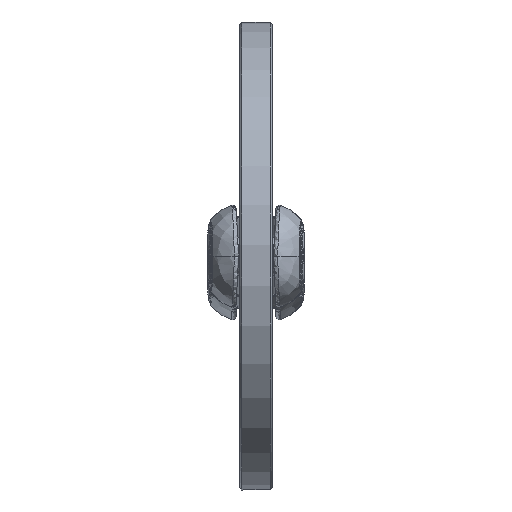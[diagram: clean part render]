
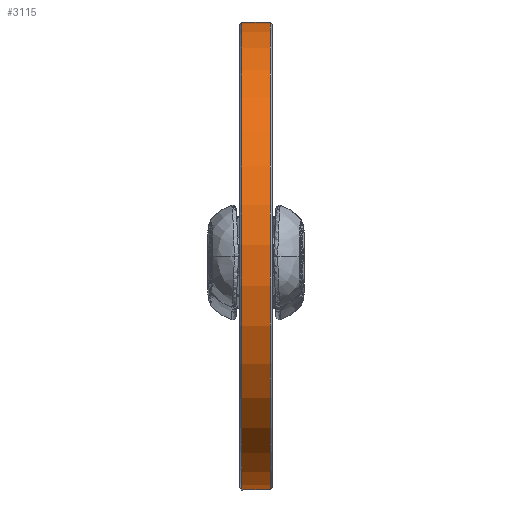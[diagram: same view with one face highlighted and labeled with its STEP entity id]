
A CAD part, top view. The second image highlights one B-rep face of the part: STEP entity #3115.
In plain terms, the highlighted cylindrical face has radius 465 mm (diameter 930 mm), a full revolution.
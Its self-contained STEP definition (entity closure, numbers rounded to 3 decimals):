
#654=CYLINDRICAL_SURFACE($,#3467,465.);
#764=FACE_BOUND($,#1275,.T.);
#971=FACE_OUTER_BOUND($,#1274,.T.);
#1274=EDGE_LOOP($,(#2858));
#1275=EDGE_LOOP($,(#2859));
#1467=CIRCLE($,#3466,465.);
#1468=CIRCLE($,#3468,465.);
#1733=VERTEX_POINT($,#13462);
#1734=VERTEX_POINT($,#13465);
#2113=EDGE_CURVE($,#1733,#1733,#1467,.T.);
#2114=EDGE_CURVE($,#1734,#1734,#1468,.T.);
#2858=ORIENTED_EDGE($,*,*,#2114,.F.);
#2859=ORIENTED_EDGE($,*,*,#2113,.F.);
#3115=ADVANCED_FACE($,(#971,#764),#654,.T.);
#3466=AXIS2_PLACEMENT_3D($,#13463,#4211,#4212);
#3467=AXIS2_PLACEMENT_3D($,#13464,#4213,#4214);
#3468=AXIS2_PLACEMENT_3D($,#13466,#4215,#4216);
#4211=DIRECTION('center_axis',(0.,0.,-1.));
#4212=DIRECTION('ref_axis',(-1.,0.,0.));
#4213=DIRECTION('center_axis',(0.,0.,1.));
#4214=DIRECTION('ref_axis',(-1.,0.,0.));
#4215=DIRECTION('center_axis',(0.,0.,1.));
#4216=DIRECTION('ref_axis',(-1.,0.,0.));
#13462=CARTESIAN_POINT('',(465.,0.,-28.5));
#13463=CARTESIAN_POINT('Origin',(0.,0.,-28.5));
#13464=CARTESIAN_POINT('Origin',(0.,0.,0.));
#13465=CARTESIAN_POINT('',(465.,0.,28.5));
#13466=CARTESIAN_POINT('Origin',(0.,0.,28.5));
